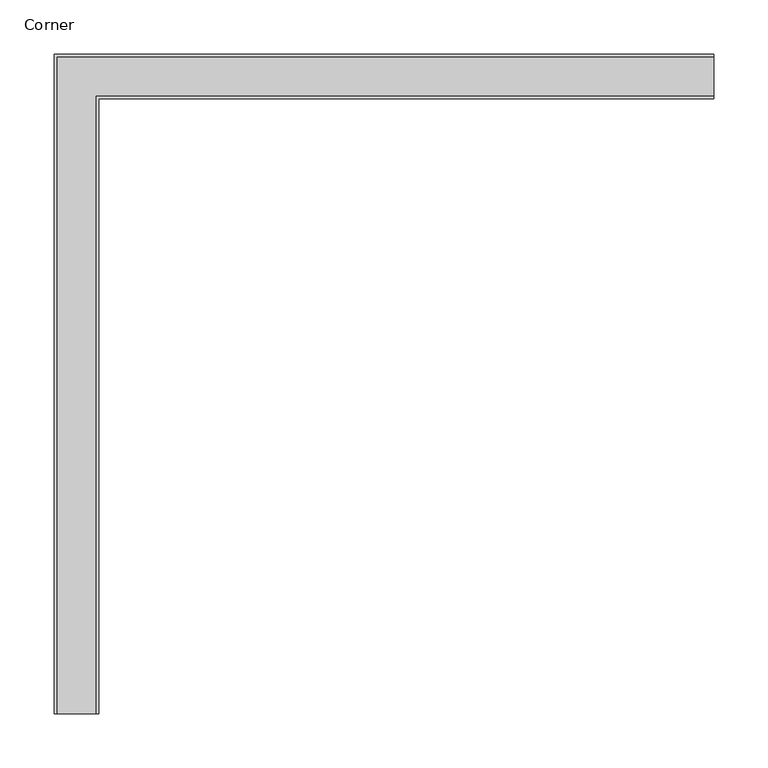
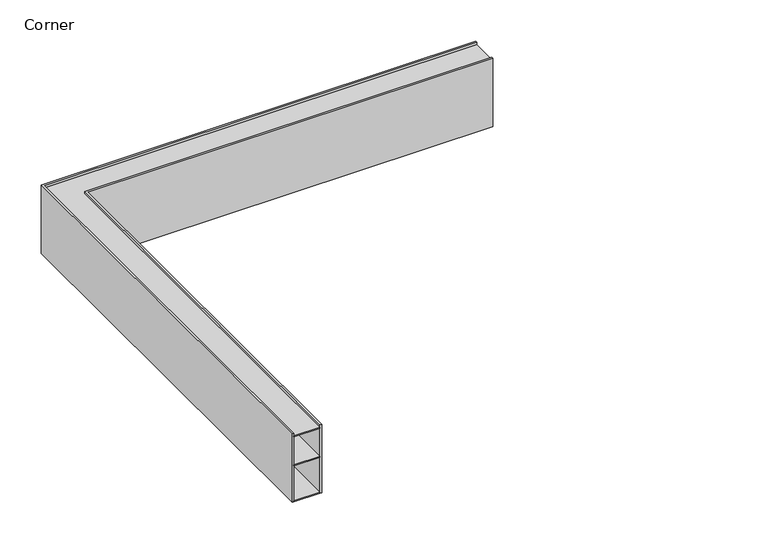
"""IFC4 building model written with IfcOpenShell, lengths in millimetres: light fixture geometry, Lighting-Ceiling-Betacalco-Block-Corner : Corner."""

from ifc_helpers import new_model, si_unit, frame, origin, origin_with_axes, place, context, project, spatial, polyline, circle_curve, outline, extrude, source, transform, mapped, element, save
from ifc_brep_helpers import plane_surface, cylinder_surface, advanced_brep


def corner_76d2cd6a(model_context):
    return source(origin(), model_context, "Body", "SolidModel", [
        advanced_brep(
        [(0.0, 0.0, 0.0), (-1.2878851, 0.0, 0.0), (1.2878851, 0.0, 0.0), (1.2878851, 0.0, 1.5875), (-1.2878851, 0.0, 1.5875), (0.0, 0.0, 1.5875)],
        [
            (0, 1),
            (1, 2, circle_curve(frame((0.0, 0.0, 0.0), z_axis=(0.0, 0.0, -1.0), x_axis=(-1.0, 0.0, 0.0)), 1.2878851)),
            (2, 0),
            (2, 1, circle_curve(frame((0.0, 0.0, 0.0), z_axis=(0.0, 0.0, -1.0), x_axis=(-1.0, 0.0, 0.0)), 1.2878851)),
            (3, 4, circle_curve(frame((0.0, 0.0, 1.5875), z_axis=(0.0, 0.0, 1.0), x_axis=(-1.0, 0.0, 0.0)), 1.2878851)),
            (4, 5),
            (5, 3),
            (4, 3, circle_curve(frame((0.0, 0.0, 1.5875), z_axis=(0.0, 0.0, 1.0), x_axis=(-1.0, 0.0, 0.0)), 1.2878851)),
            (1, 4),
            (3, 2),
        ],
        [
            plane_surface(frame((0.0, 0.0, 0.0), z_axis=(0.0, 0.0, -1.0), x_axis=(-1.0, 0.0, 0.0))),
            plane_surface(frame((0.0, 0.0, 1.5875), z_axis=(0.0, 0.0, 1.0), x_axis=(-1.0, 0.0, 0.0))),
            cylinder_surface(frame((0.0, 0.0, 10.1320953), z_axis=(0.0, 0.0, -1.0), x_axis=(-1.0, 0.0, 0.0)), 1.2878851),
        ],
        [
            (0, [[1, 2, 3]]),
            (0, [[-3, 4, -1]]),
            (1, [[5, 6, 7]]),
            (1, [[8, -7, -6]]),
            (2, [[-2, 9, -5, 10]]),
            (2, [[-4, -10, -8, -9]]),
        ],
    ),
        extrude(outline(polyline([(588.9625, 18.0975), (588.9625, -18.0975), (18.0975, -18.0975), (18.0975, -588.9625), (-18.0975, -588.9625), (-18.0975, 18.0975), (588.9625, 18.0975)])), origin_with_axes(), (0.0, 0.0, 1.0), 1.5875),
        extrude(outline(polyline([(588.9625, 18.0975), (588.9625, -18.0975), (18.0975, -18.0975), (18.0975, -588.9625), (-18.0975, -588.9625), (-18.0975, 18.0975), (588.9625, 18.0975)])), frame((0.0, 0.0, 53.687913), z_axis=(0.0, 0.0, 1.0), x_axis=(1.0, 0.0, 0.0)), (0.0, 0.0, 1.0), 1.5875),
        extrude(outline(polyline([(588.9625, 18.0975), (588.9625, -18.0975), (18.0975, -18.0975), (18.0975, -588.9625), (-18.0975, -588.9625), (-18.0975, 18.0975), (588.9625, 18.0975)])), frame((0.0, 0.0, 96.3095588), z_axis=(0.0, 0.0, 1.0), x_axis=(1.0, 0.0, 0.0)), (0.0, 0.0, 1.0), 1.5875),
        extrude(outline(polyline([(588.9625, 20.6375), (588.9625, 18.0975), (-18.0975, 18.0975), (-18.0975, -588.9625), (-20.6375, -588.9625), (-20.6375, 20.6375), (588.9625, 20.6375)])), origin_with_axes(), (0.0, 0.0, 1.0), 101.6),
        extrude(outline(polyline([(588.9625, -18.0975), (588.9625, -20.6375), (20.6375, -20.6375), (20.6375, -588.9625), (18.0975, -588.9625), (18.0975, -18.0975), (588.9625, -18.0975)])), origin_with_axes(), (0.0, 0.0, 1.0), 101.6),
    ])


if __name__ == "__main__":
    model = new_model("IFC4")
    model_context = context("Model", 3, world=origin())
    ifc_project = project(units=[si_unit("LENGTHUNIT", "METRE", prefix="MILLI")], contexts=[model_context])
    site = spatial("IfcSite", under=ifc_project)
    building = spatial("IfcBuilding", under=site)
    placement = place(None, origin())
    corner_shape = corner_76d2cd6a(model_context)
    element("IfcLightFixture", 1, ObjectType="Lighting-Ceiling-Betacalco-Block-Corner : Corner", at=placement, inside=building, context=model_context, shape_type="MappedRepresentation", body=[
        mapped(corner_shape, transform((0.0, 0.0, 0.0), x_axis=(1.0, 0.0, 0.0), y_axis=(0.0, 1.0, 0.0), z_axis=(0.0, 0.0, 1.0))),
    ])
    save(model, "model.ifc")
